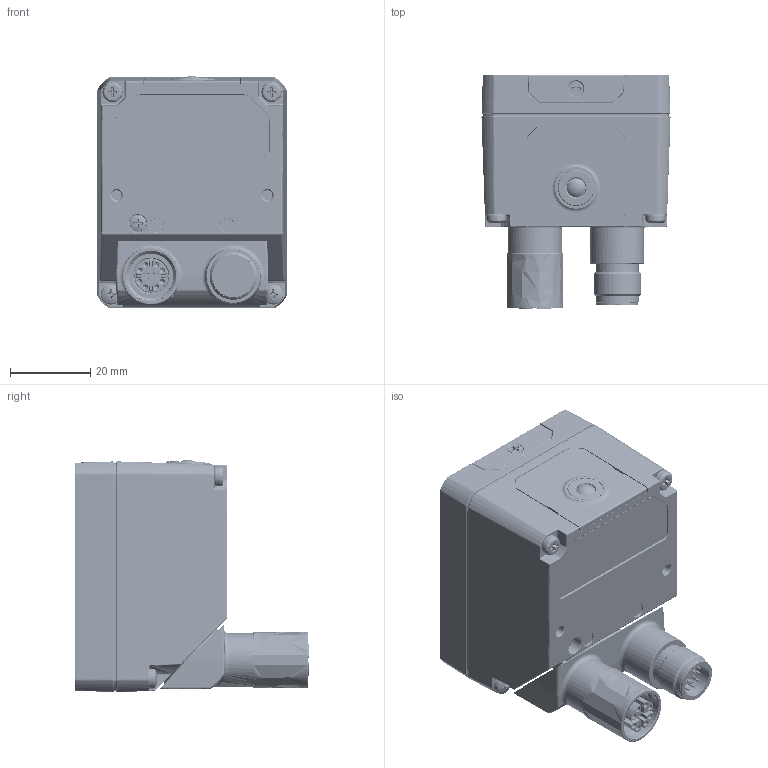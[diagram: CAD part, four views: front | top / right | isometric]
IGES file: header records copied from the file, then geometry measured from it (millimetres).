
Global section: file name: C:\Users\mgiacomazzi\Desktop\M220-DSD-892-STD-CONN-90.igs; native system: NX V10.0; preprocessor: SIEMENS PLM Software NX 10.0; date: 20180319.104954; units: millimetre
Bounding box: 47.09 x 58.38 x 57.88 mm (x, y, z)
Surface area: 45617 mm2 (no closed solid volume)
Topology: 0 solids, 0 shells, 3060 faces, 18163 edges, 17814 vertices
Faces by surface type: bspline 3060
